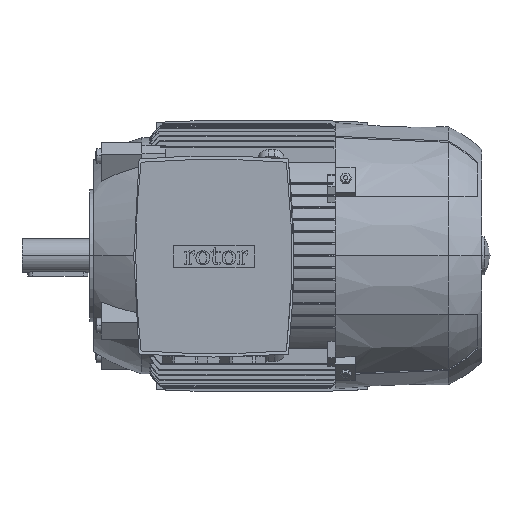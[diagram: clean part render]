
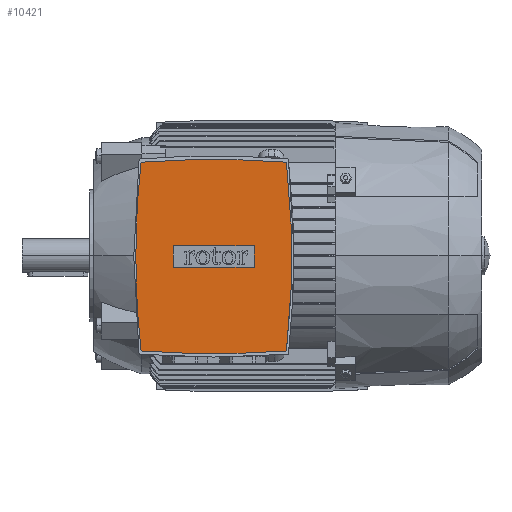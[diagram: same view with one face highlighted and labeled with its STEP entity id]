
A CAD part, top view. The second image highlights one B-rep face of the part: STEP entity #10421.
In plain terms, the highlighted planar face has unit normal (0, 0, 1).
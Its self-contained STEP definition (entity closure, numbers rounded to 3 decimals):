
#1405 = ORIENTED_EDGE ( 'NONE', *, *, #39436, .F. ) ;
#3236 = ORIENTED_EDGE ( 'NONE', *, *, #40940, .F. ) ;
#3273 = LINE ( 'NONE', #23090, #48270 ) ;
#3355 = AXIS2_PLACEMENT_3D ( 'NONE', #4566, #31243, #8431 ) ;
#4566 = CARTESIAN_POINT ( 'NONE',  ( -592.2, -1., 196. ) ) ;
#5000 = CARTESIAN_POINT ( 'NONE',  ( 120.661, -79.775, 196. ) ) ;
#5913 = EDGE_CURVE ( 'NONE', #40578, #16334, #11109, .T. ) ;
#6195 = LINE ( 'NONE', #21781, #7413 ) ;
#6504 = ORIENTED_EDGE ( 'NONE', *, *, #5913, .T. ) ;
#7413 = VECTOR ( 'NONE', #22936, 1000. ) ;
#7938 = DIRECTION ( 'NONE',  ( 0., -1., 0. ) ) ;
#8431 = DIRECTION ( 'NONE',  ( -1., 0., 0. ) ) ;
#8599 = EDGE_CURVE ( 'NONE', #39162, #40578, #3273, .T. ) ;
#9600 = DIRECTION ( 'NONE',  ( 0., 0., -1. ) ) ;
#9971 = AXIS2_PLACEMENT_3D ( 'NONE', #32389, #9600, #36169 ) ;
#10066 = CARTESIAN_POINT ( 'NONE',  ( 26.25, -10.05, 196. ) ) ;
#10364 = VERTEX_POINT ( 'NONE', #45178 ) ;
#10409 = CIRCLE ( 'NONE', #28425, 828.12 ) ;
#10421 = ADVANCED_FACE ( 'NONE', ( #22361, #26860 ), #42893, .T. ) ;
#10623 = VECTOR ( 'NONE', #37036, 1000. ) ;
#10722 = VERTEX_POINT ( 'NONE', #34154 ) ;
#10783 = DIRECTION ( 'NONE',  ( 0., 0., -1. ) ) ;
#11109 = LINE ( 'NONE', #37209, #10623 ) ;
#11455 = ORIENTED_EDGE ( 'NONE', *, *, #12003, .T. ) ;
#12003 = EDGE_CURVE ( 'NONE', #10364, #39162, #6195, .T. ) ;
#13780 = EDGE_LOOP ( 'NONE', ( #48919, #37291, #3236, #1405, #25384 ) ) ;
#14598 = CARTESIAN_POINT ( 'NONE',  ( 712.2, -1., 196. ) ) ;
#16334 = VERTEX_POINT ( 'NONE', #44540 ) ;
#16626 = EDGE_LOOP ( 'NONE', ( #6504, #30364, #11455, #16917 ) ) ;
#16637 = VERTEX_POINT ( 'NONE', #20006 ) ;
#16835 = AXIS2_PLACEMENT_3D ( 'NONE', #41444, #18802, #45246 ) ;
#16917 = ORIENTED_EDGE ( 'NONE', *, *, #8599, .T. ) ;
#18383 = DIRECTION ( 'NONE',  ( -1., 0., 0. ) ) ;
#18802 = DIRECTION ( 'NONE',  ( 0., 0., -1. ) ) ;
#19518 = CIRCLE ( 'NONE', #16835, 717.2 ) ;
#20006 = CARTESIAN_POINT ( 'NONE',  ( -0.661, -79.775, 196. ) ) ;
#21781 = CARTESIAN_POINT ( 'NONE',  ( 60., -10.05, 196. ) ) ;
#22361 = FACE_OUTER_BOUND ( 'NONE', #13780, .T. ) ;
#22936 = DIRECTION ( 'NONE',  ( -1., 0., 0. ) ) ;
#23090 = CARTESIAN_POINT ( 'NONE',  ( 26.25, -1., 196. ) ) ;
#23096 = DIRECTION ( 'NONE',  ( 0., 1., 0. ) ) ;
#24797 = EDGE_CURVE ( 'NONE', #16334, #10364, #47909, .T. ) ;
#25384 = ORIENTED_EDGE ( 'NONE', *, *, #30143, .F. ) ;
#26860 = FACE_BOUND ( 'NONE', #16626, .T. ) ;
#28425 = AXIS2_PLACEMENT_3D ( 'NONE', #33565, #10783, #37350 ) ;
#30143 = EDGE_CURVE ( 'NONE', #36493, #48884, #32027, .T. ) ;
#30364 = ORIENTED_EDGE ( 'NONE', *, *, #24797, .T. ) ;
#30752 = CARTESIAN_POINT ( 'NONE',  ( 93.75, -1., 196. ) ) ;
#31243 = DIRECTION ( 'NONE',  ( 0., 0., -1. ) ) ;
#32027 = CIRCLE ( 'NONE', #3355, 717.2 ) ;
#32389 = CARTESIAN_POINT ( 'NONE',  ( 60., -748.12, 196. ) ) ;
#33080 = CARTESIAN_POINT ( 'NONE',  ( 26.25, 8.05, 196. ) ) ;
#33565 = CARTESIAN_POINT ( 'NONE',  ( 60., 746.12, 196. ) ) ;
#34154 = CARTESIAN_POINT ( 'NONE',  ( -0.661, 77.775, 196. ) ) ;
#36169 = DIRECTION ( 'NONE',  ( -1., 0., 0. ) ) ;
#36410 = AXIS2_PLACEMENT_3D ( 'NONE', #42059, #42006, #41909 ) ;
#36493 = VERTEX_POINT ( 'NONE', #47289 ) ;
#37036 = DIRECTION ( 'NONE',  ( 1., 0., 0. ) ) ;
#37209 = CARTESIAN_POINT ( 'NONE',  ( 60., 8.05, 196. ) ) ;
#37291 = ORIENTED_EDGE ( 'NONE', *, *, #48632, .F. ) ;
#37311 = CARTESIAN_POINT ( 'NONE',  ( -5., -1., 196. ) ) ;
#37350 = DIRECTION ( 'NONE',  ( -1., 0., 0. ) ) ;
#39162 = VERTEX_POINT ( 'NONE', #10066 ) ;
#39436 = EDGE_CURVE ( 'NONE', #48884, #16637, #10409, .T. ) ;
#40578 = VERTEX_POINT ( 'NONE', #33080 ) ;
#40940 = EDGE_CURVE ( 'NONE', #16637, #46621, #19518, .T. ) ;
#41036 = DIRECTION ( 'NONE',  ( 0., 0., -1. ) ) ;
#41444 = CARTESIAN_POINT ( 'NONE',  ( 712.2, -1., 196. ) ) ;
#41909 = DIRECTION ( 'NONE',  ( 1., 0., 0. ) ) ;
#42006 = DIRECTION ( 'NONE',  ( 0., 0., 1. ) ) ;
#42059 = CARTESIAN_POINT ( 'NONE',  ( 60., -1., 196. ) ) ;
#42298 = VECTOR ( 'NONE', #7938, 1000. ) ;
#42657 = EDGE_CURVE ( 'NONE', #10722, #36493, #47371, .T. ) ;
#42893 = PLANE ( 'NONE',  #36410 ) ;
#44540 = CARTESIAN_POINT ( 'NONE',  ( 93.75, 8.05, 196. ) ) ;
#45178 = CARTESIAN_POINT ( 'NONE',  ( 93.75, -10.05, 196. ) ) ;
#45246 = DIRECTION ( 'NONE',  ( -1., 0., 0. ) ) ;
#45508 = AXIS2_PLACEMENT_3D ( 'NONE', #14598, #41036, #18383 ) ;
#46470 = CIRCLE ( 'NONE', #45508, 717.2 ) ;
#46621 = VERTEX_POINT ( 'NONE', #37311 ) ;
#47289 = CARTESIAN_POINT ( 'NONE',  ( 120.661, 77.775, 196. ) ) ;
#47371 = CIRCLE ( 'NONE', #9971, 828.12 ) ;
#47909 = LINE ( 'NONE', #30752, #42298 ) ;
#48270 = VECTOR ( 'NONE', #23096, 1000. ) ;
#48632 = EDGE_CURVE ( 'NONE', #46621, #10722, #46470, .T. ) ;
#48884 = VERTEX_POINT ( 'NONE', #5000 ) ;
#48919 = ORIENTED_EDGE ( 'NONE', *, *, #42657, .F. ) ;
